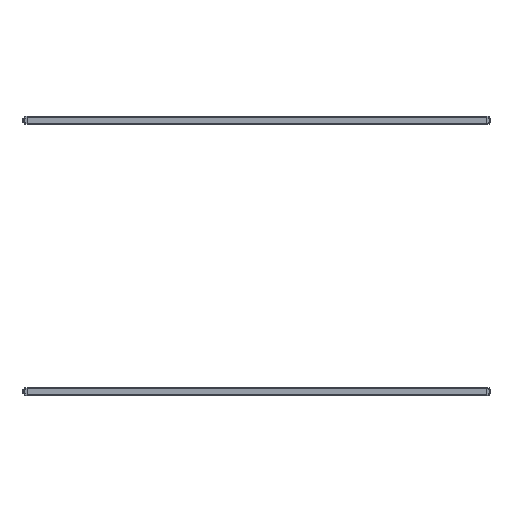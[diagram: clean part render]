
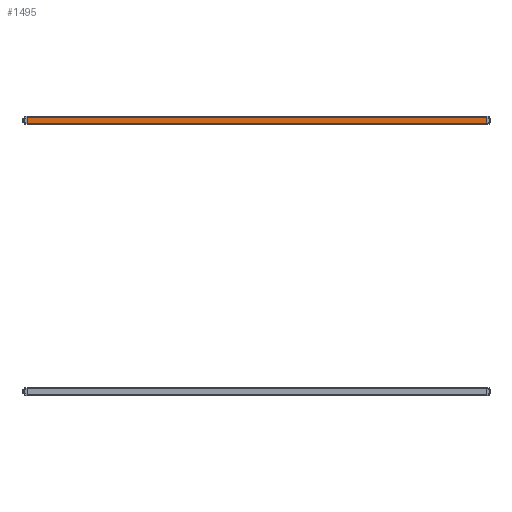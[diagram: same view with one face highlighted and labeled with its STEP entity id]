
A CAD part, front view. The second image highlights one B-rep face of the part: STEP entity #1495.
In plain terms, the highlighted planar face has unit normal (0, -1, 0).
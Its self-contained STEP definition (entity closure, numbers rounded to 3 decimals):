
#1495=ADVANCED_FACE('',(#2417),#2028,.T.);
#2028=PLANE('',#11681);
#2417=FACE_OUTER_BOUND('',#2936,.T.);
#2936=EDGE_LOOP('',(#6212,#6213,#6214,#6215));
#3504=LINE('',#15476,#4677);
#3606=LINE('',#15708,#4779);
#3694=LINE('',#15887,#4867);
#3695=LINE('',#15888,#4868);
#4677=VECTOR('',#12523,1.);
#4779=VECTOR('',#12669,1.);
#4867=VECTOR('',#12859,1.);
#4868=VECTOR('',#12860,1.);
#6212=ORIENTED_EDGE('',*,*,#9854,.T.);
#6213=ORIENTED_EDGE('',*,*,#10063,.T.);
#6214=ORIENTED_EDGE('',*,*,#9971,.F.);
#6215=ORIENTED_EDGE('',*,*,#10064,.F.);
#8861=VERTEX_POINT('',#15475);
#8862=VERTEX_POINT('',#15477);
#8969=VERTEX_POINT('',#15707);
#8970=VERTEX_POINT('',#15709);
#9854=EDGE_CURVE('',#8862,#8861,#3504,.T.);
#9971=EDGE_CURVE('',#8969,#8970,#3606,.T.);
#10063=EDGE_CURVE('',#8861,#8970,#3694,.T.);
#10064=EDGE_CURVE('',#8862,#8969,#3695,.T.);
#11681=AXIS2_PLACEMENT_3D('',#15889,#12861,#12862);
#12523=DIRECTION('',(0.,0.,-1.));
#12669=DIRECTION('',(0.,0.,-1.));
#12859=DIRECTION('',(1.,0.,0.));
#12860=DIRECTION('',(1.,0.,0.));
#12861=DIRECTION('',(0.,-1.,0.));
#12862=DIRECTION('',(0.,0.,-1.));
#15475=CARTESIAN_POINT('',(0.,-15.15,-12.));
#15476=CARTESIAN_POINT('',(0.,-15.15,12.));
#15477=CARTESIAN_POINT('',(0.,-15.15,12.));
#15707=CARTESIAN_POINT('',(1740.,-15.15,12.));
#15708=CARTESIAN_POINT('',(1740.,-15.15,0.));
#15709=CARTESIAN_POINT('',(1740.,-15.15,-12.));
#15887=CARTESIAN_POINT('',(0.,-15.15,-12.));
#15888=CARTESIAN_POINT('',(0.,-15.15,12.));
#15889=CARTESIAN_POINT('',(0.,-15.15,15.65));
